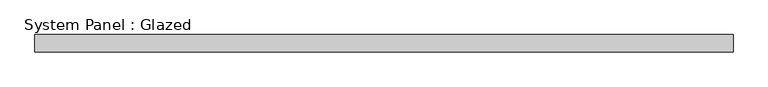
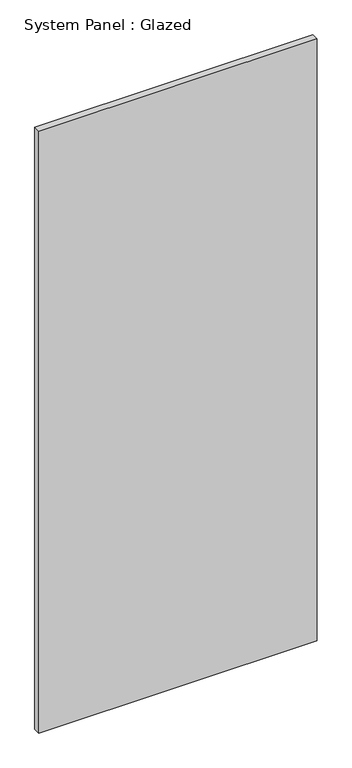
"""IFC4 building model written with IfcOpenShell, lengths in millimetres: plate geometry, System Panel : Glazed."""

from ifc_helpers import new_model, si_unit, origin, origin_with_axes, place, context, project, spatial, polyline, outline, extrude, source, transform, mapped, element, save


def system_panel_glazed_773a8fa9(model_context):
    return source(origin(), model_context, "Body", "SweptSolid", [
        extrude(outline(polyline([(508.3333333, 24.5), (-508.3333333, 24.5), (-508.3333333, 49.5), (508.3333333, 49.5), (508.3333333, 24.5)])), origin_with_axes(), (0.0, 0.0, 1.0), 2325.0),
    ])


if __name__ == "__main__":
    model = new_model("IFC4")
    model_context = context("Model", 3, world=origin())
    ifc_project = project(units=[si_unit("LENGTHUNIT", "METRE", prefix="MILLI")], contexts=[model_context])
    site = spatial("IfcSite", under=ifc_project)
    building = spatial("IfcBuilding", under=site)
    placement = place(None, origin())
    system_panel_glazed_shape = system_panel_glazed_773a8fa9(model_context)
    element("IfcPlate", 1, ObjectType="System Panel : Glazed", at=placement, inside=building, context=model_context, shape_type="MappedRepresentation", body=[
        mapped(system_panel_glazed_shape, transform((0.0, 0.0, 0.0), x_axis=(1.0, 0.0, 0.0), y_axis=(0.0, 1.0, 0.0), z_axis=(0.0, 0.0, 1.0))),
    ])
    save(model, "model.ifc")
